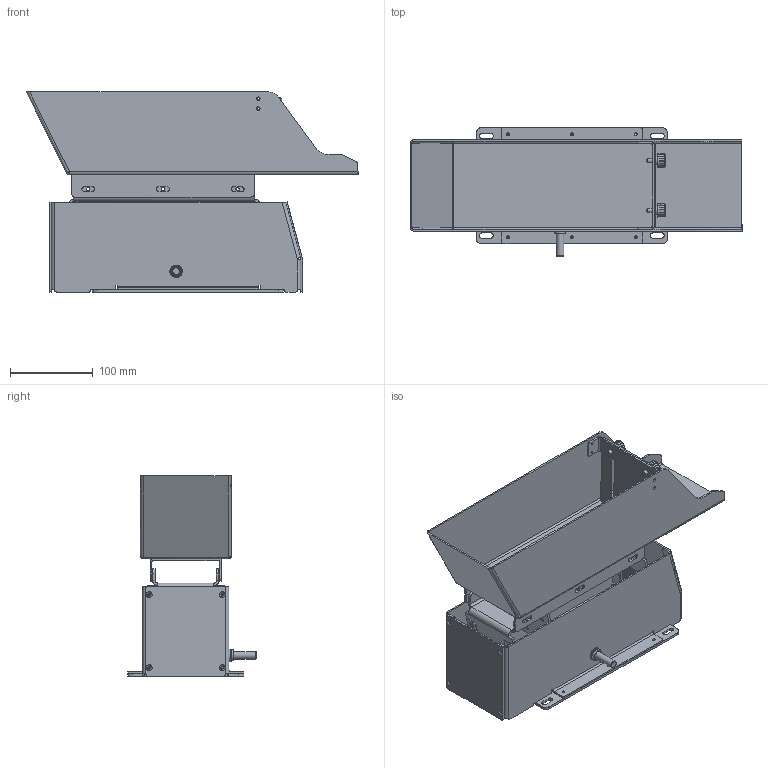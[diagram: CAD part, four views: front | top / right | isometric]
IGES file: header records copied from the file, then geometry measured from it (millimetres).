
Global section: file name: UniHopper2.0_share; native system: Autodesk Inventor 2024; preprocessor: unknown; author: houns; date: 20260610.143323; units: millimetre
Bounding box: 400 x 155 x 241.05 mm (x, y, z)
Volume: 731214.4 mm3; surface area: 641523.7 mm2
Topology: 18 solids, 18 shells, 733 faces, 2007 edges, 1345 vertices
Faces by surface type: bspline 733
